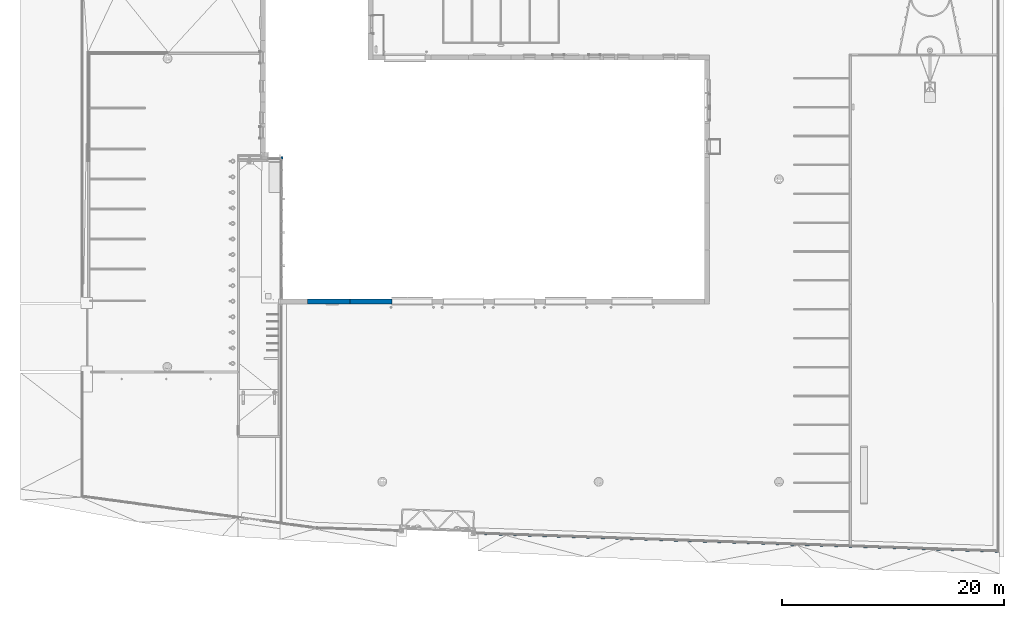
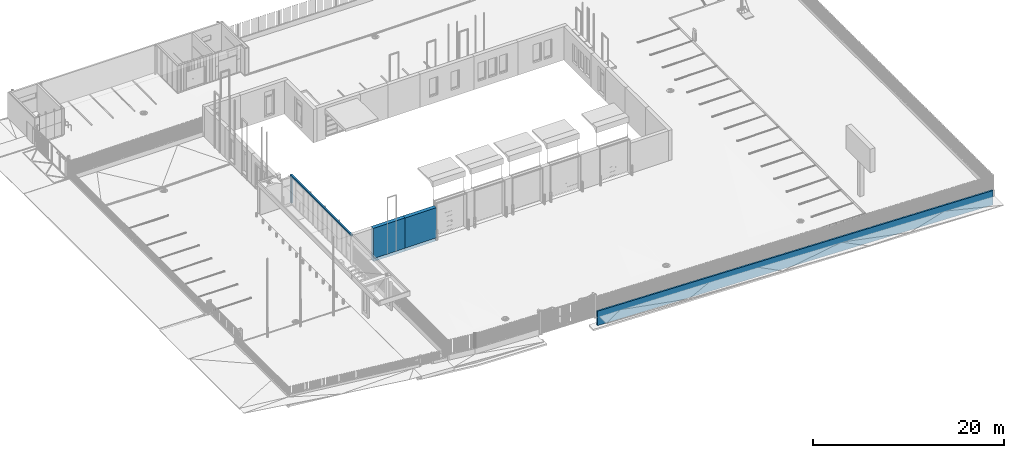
# One storey, part 15 of 77: 4 walls, 6 openings.
"""IFC2X3 building model written with IfcOpenShell, lengths in millimetres."""

from ifc_helpers import new_model, entity, si_unit, converted_unit, derived_unit, direction, frame, frame_2d, origin, place, context, subcontext, project, spatial, polyline, rectangle, outline, extrude, faceted_brep, material, layer, layer_set, layer_usage, type_object, element, save


model = new_model("IFC2X3")

# Units and contexts
model_context = context("Model", 3, precision=0.01, world=origin(), true_north=direction((6.12303176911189e-17, 1.0)))
body_context = subcontext(model_context, "Body", "Model", "MODEL_VIEW")
ifc_project = project(units=[si_unit("LENGTHUNIT", "METRE", prefix="MILLI"), si_unit("AREAUNIT", "SQUARE_METRE"), si_unit("VOLUMEUNIT", "CUBIC_METRE"), converted_unit("PLANEANGLEUNIT", "DEGREE", entity("IfcRatioMeasure", 0.0174532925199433), si_unit("PLANEANGLEUNIT", "RADIAN"), dimensions=[0, 0, 0, 0, 0, 0, 0]), si_unit("MASSUNIT", "GRAM", prefix="KILO"), derived_unit("MASSDENSITYUNIT", [(si_unit("MASSUNIT", "GRAM", prefix="KILO"), 1), (si_unit("LENGTHUNIT", "METRE"), -3)]), si_unit("TIMEUNIT", "SECOND"), si_unit("FREQUENCYUNIT", "HERTZ"), si_unit("THERMODYNAMICTEMPERATUREUNIT", "DEGREE_CELSIUS"), derived_unit("THERMALTRANSMITTANCEUNIT", [(si_unit("MASSUNIT", "GRAM", prefix="KILO"), 1), (si_unit("THERMODYNAMICTEMPERATUREUNIT", "KELVIN"), -1), (si_unit("TIMEUNIT", "SECOND"), -3)]), derived_unit("VOLUMETRICFLOWRATEUNIT", [(si_unit("LENGTHUNIT", "METRE"), 3), (si_unit("TIMEUNIT", "SECOND"), -1)]), si_unit("ELECTRICCURRENTUNIT", "AMPERE"), si_unit("ELECTRICVOLTAGEUNIT", "VOLT"), si_unit("POWERUNIT", "WATT"), si_unit("FORCEUNIT", "NEWTON", prefix="KILO"), si_unit("ILLUMINANCEUNIT", "LUX"), si_unit("LUMINOUSFLUXUNIT", "LUMEN"), si_unit("LUMINOUSINTENSITYUNIT", "CANDELA"), derived_unit("USERDEFINED", [(si_unit("MASSUNIT", "GRAM", prefix="KILO"), -1), (si_unit("LENGTHUNIT", "METRE"), -2), (si_unit("TIMEUNIT", "SECOND"), 3), (si_unit("LUMINOUSFLUXUNIT", "LUMEN"), 1)]), derived_unit("LINEARVELOCITYUNIT", [(si_unit("LENGTHUNIT", "METRE"), 1), (si_unit("TIMEUNIT", "SECOND"), -1)]), si_unit("PRESSUREUNIT", "PASCAL"), derived_unit("USERDEFINED", [(si_unit("LENGTHUNIT", "METRE"), -2), (si_unit("MASSUNIT", "GRAM", prefix="KILO"), 1), (si_unit("TIMEUNIT", "SECOND"), -2)])], contexts=[model_context])

# Site, building, storey
site_placement = place(None, origin())
site = spatial("IfcSite", under=ifc_project, at=site_placement, Name="Default", CompositionType="ELEMENT")
building_placement = place(site_placement, origin())
building = spatial("IfcBuilding", under=site, at=building_placement, CompositionType="ELEMENT")
storey_placement = place(building_placement, origin())
storey = spatial("IfcBuildingStorey", under=building, at=storey_placement, Name="1. KORRUS", CompositionType="ELEMENT", Elevation=0.0)

# Wall, openings
ifc_material_1 = material(Name="RECKLI 1 173 THUR by Polantis 2016-toon1")
ifc_layer_1 = layer(ifc_material_1, 100.0)
ifc_material_2 = material(Name="Soojusisolatsioon PIR")
ifc_layer_2 = layer(ifc_material_2, 150.0)
ifc_material_3 = material(Name="r/b")
ifc_layer_3 = layer(ifc_material_3, 200.0)
ifc_layer_set_1 = layer_set([ifc_layer_1, ifc_layer_2, ifc_layer_3], Name="Basic Wall:VS-2 -toon-d")
ifc_layer_usage_1 = layer_usage(ifc_layer_set_1, "AXIS2", "NEGATIVE", 225.0)
wall_type_1 = type_object("IfcWallType", Name="Basic Wall:VS-2 -toon-d", PredefinedType="STANDARD", material=ifc_layer_set_1)
wall_1_placement = place(storey_placement, frame((11400.0, -225.0, -400.0), z_axis=(0.0, 0.0, 1.0), x_axis=(-1.0, 0.0, 0.0)))
wall_1 = element("IfcWallStandardCase", 1, at=wall_1_placement, inside=storey, type_object=wall_type_1, material=ifc_layer_usage_1, Name="Basic Wall:VS-2 -toon-d", ObjectType="Basic Wall:VS-2 -toon-d", context=body_context, shape_type="SweptSolid", body=[
    extrude(rectangle(XDim=3785.0, YDim=450.0, at=frame_2d((1892.5, 2.8421709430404e-14), x_axis=(-1.0, 0.0))), origin(), (0.0, 0.0, 1.0), 4265.0),
])
opening_1_placement = place(wall_1_placement, origin())
element("IfcOpeningElement", 2, at=opening_1_placement, cuts=wall_1, Name="Basic Wall:VS-2 -toon-d", ObjectType="Opening", context=body_context, shape_type="Brep", body=[
    faceted_brep([(11830.0, -28255.0, 400.0), (11830.0, -28255.0, 0.0), (11850.0, -28275.0, 0.0), (11850.0, -28275.0, 400.0), (11830.0, -23515.0, 400.0), (11850.0, -23515.0, 400.0), (11850.0, -23515.0, 0.0), (11830.0, -23515.0, 0.0)], [[[0, 1, 2, 3]], [[4, 5, 6, 7]], [[1, 0, 4, 7]], [[2, 1, 7, 6]], [[3, 2, 6, 5]], [[0, 3, 5, 4]]]),
    faceted_brep([(11830.0, -28255.0, 400.0), (11850.0, -28275.0, 400.0), (11850.0, -28275.0, 0.0), (11830.0, -28255.0, 0.0), (7490.0, -28255.0, 400.0), (7490.0, -28255.0, 0.0), (7490.0, -28275.0, 0.0), (7490.0, -28275.0, 400.0)], [[[0, 1, 2, 3]], [[4, 5, 6, 7]], [[1, 0, 4, 7]], [[2, 1, 7, 6]], [[3, 2, 6, 5]], [[0, 3, 5, 4]]]),
    faceted_brep([(1770.0, -28255.0, 400.0), (1750.0, -28275.0, 400.0), (1750.0, -28275.0, 0.0), (1770.0, -28255.0, 0.0), (1770.0, -22155.0517807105, 400.0), (1770.0, -22155.0517807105, 0.0), (1750.0, -22175.0517807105, 0.0), (1750.0, -22175.0517807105, 400.0)], [[[0, 1, 2, 3]], [[4, 5, 6, 7]], [[1, 0, 4, 7]], [[2, 1, 7, 6]], [[3, 2, 6, 5]], [[0, 3, 5, 4]]]),
    faceted_brep([(-2950.0, -22155.0517807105, 400.0), (-2950.0, -22175.0517807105, 400.0), (-2950.0, -22175.0517807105, 0.0), (-2950.0, -22155.0517807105, 0.0), (-3480.0, -22155.0517807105, 400.0), (-3480.0, -22155.0517807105, 0.0), (-3480.0, -22175.0517807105, 0.0), (-3480.0, -22175.0517807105, 400.0)], [[[0, 1, 2, 3]], [[4, 5, 6, 7]], [[1, 0, 4, 7]], [[2, 1, 7, 6]], [[3, 2, 6, 5]], [[0, 3, 5, 4]]]),
    faceted_brep([(-28530.0, -22155.0517807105, 400.0), (-28550.0, -22175.0517807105, 400.0), (-28550.0, -22175.0517807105, 0.0), (-28530.0, -22155.0517807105, 0.0), (-28530.0, -16015.0, 400.0), (-28530.0, -16015.0, 0.0), (-28550.0, -16015.0, 0.0), (-28550.0, -16015.0, 400.0)], [[[0, 1, 2, 3]], [[4, 5, 6, 7]], [[1, 0, 4, 7]], [[2, 1, 7, 6]], [[3, 2, 6, 5]], [[0, 3, 5, 4]]]),
    faceted_brep([(-28530.0, 205.0, 400.0), (-28550.0, 225.0, 400.0), (-28550.0, 225.0, 0.0), (-28530.0, 205.0, 0.0), (-23400.0, 205.0, 400.0), (-23400.0, 205.0, 0.0), (-23400.0, 225.0, 0.0), (-23400.0, 225.0, 400.0)], [[[0, 1, 2, 3]], [[4, 5, 6, 7]], [[1, 0, 4, 7]], [[2, 1, 7, 6]], [[3, 2, 6, 5]], [[0, 3, 5, 4]]]),
    faceted_brep([(0.0, 205.0, 400.0), (0.0, 225.0, 400.0), (0.0, 225.0, 0.0), (0.0, 205.0, 0.0), (3785.0, 205.0, 400.0), (3785.0, 205.0, 0.0), (3785.0, 225.0, 0.0), (3785.0, 225.0, 400.0)], [[[0, 1, 2, 3]], [[4, 5, 6, 7]], [[1, 0, 4, 7]], [[2, 1, 7, 6]], [[3, 2, 6, 5]], [[0, 3, 5, 4]]]),
    faceted_brep([(-28530.0, -12985.0, 400.0), (-28550.0, -12985.0, 400.0), (-28550.0, -12985.0, 0.0), (-28530.0, -12985.0, 0.0), (-28530.0, -8868.33000000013, 400.0), (-28530.0, -8868.33000000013, 0.0), (-28550.0, -8868.33000000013, 0.0), (-28550.0, -8868.33000000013, 400.0)], [[[0, 1, 2, 3]], [[4, 5, 6, 7]], [[1, 0, 4, 7]], [[2, 1, 7, 6]], [[3, 2, 6, 5]], [[0, 3, 5, 4]]]),
    faceted_brep([(-19800.0, 205.0, 400.0), (-19800.0, 225.0, 400.0), (-19800.0, 225.0, 0.0), (-19800.0, 205.0, 0.0), (-17400.0, 205.0, 400.0), (-17400.0, 205.0, 0.0), (-17400.0, 225.0, 0.0), (-17400.0, 225.0, 400.0)], [[[0, 1, 2, 3]], [[4, 5, 6, 7]], [[1, 0, 4, 7]], [[2, 1, 7, 6]], [[3, 2, 6, 5]], [[0, 3, 5, 4]]]),
    faceted_brep([(7609.96917624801, 205.0, 400.0), (7609.96917624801, 225.0, 400.0), (7609.96917624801, 225.0, 0.0), (7609.96917624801, 205.0, 0.0), (10094.969176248, 205.0, 400.0), (10094.969176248, 205.0, 0.0), (10094.969176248, 225.0, 0.0), (10094.969176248, 225.0, 400.0)], [[[0, 1, 2, 3]], [[4, 5, 6, 7]], [[1, 0, 4, 7]], [[2, 1, 7, 6]], [[3, 2, 6, 5]], [[0, 3, 5, 4]]]),
    faceted_brep([(-4600.0, 205.0, 400.0), (-4600.0, 225.0, 400.0), (-4600.0, 225.0, 0.0), (-4600.0, 205.0, 0.0), (-3600.0, 205.0, 400.0), (-3600.0, 205.0, 0.0), (-3600.0, 225.0, 0.0), (-3600.0, 225.0, 400.0)], [[[0, 1, 2, 3]], [[4, 5, 6, 7]], [[1, 0, 4, 7]], [[2, 1, 7, 6]], [[3, 2, 6, 5]], [[0, 3, 5, 4]]]),
    faceted_brep([(-9200.03166298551, 205.0, 400.0), (-9200.03166298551, 225.0, 400.0), (-9200.03166298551, 225.0, 0.0), (-9200.03166298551, 205.0, 0.0), (-8200.0, 205.0, 400.0), (-8200.0, 205.0, 0.0), (-8200.0, 225.0, 0.0), (-8200.0, 225.0, 400.0)], [[[0, 1, 2, 3]], [[4, 5, 6, 7]], [[1, 0, 4, 7]], [[2, 1, 7, 6]], [[3, 2, 6, 5]], [[0, 3, 5, 4]]]),
    faceted_brep([(-13800.0316629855, 205.0, 400.0), (-13800.0316629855, 225.0, 400.0), (-13800.0316629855, 225.0, 0.0), (-13800.0316629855, 205.0, 0.0), (-12800.0, 205.0, 400.0), (-12800.0, 205.0, 0.0), (-12800.0, 225.0, 0.0), (-12800.0, 225.0, 400.0)], [[[0, 1, 2, 3]], [[4, 5, 6, 7]], [[1, 0, 4, 7]], [[2, 1, 7, 6]], [[3, 2, 6, 5]], [[0, 3, 5, 4]]]),
    faceted_brep([(-28530.0, -4640.0, 400.0), (-28550.0, -4640.0, 400.0), (-28550.0, -4640.0, 0.0), (-28530.0, -4640.0, 0.0), (-28530.0, 205.0, 400.0), (-28530.0, 205.0, 0.0), (-28550.0, 225.0, 0.0), (-28550.0, 225.0, 400.0)], [[[0, 1, 2, 3]], [[4, 5, 6, 7]], [[1, 0, 4, 7]], [[2, 1, 7, 6]], [[3, 2, 6, 5]], [[0, 3, 5, 4]]]),
    faceted_brep([(-28530.0, -8868.33000000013, 400.0), (-28550.0, -8868.33000000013, 400.0), (-28550.0, -8868.33000000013, 0.0), (-28530.0, -8868.33000000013, 0.0), (-28530.0, -4640.0, 400.0), (-28530.0, -4640.0, 0.0), (-28550.0, -4640.0, 0.0), (-28550.0, -4640.0, 400.0)], [[[0, 1, 2, 3]], [[4, 5, 6, 7]], [[1, 0, 4, 7]], [[2, 1, 7, 6]], [[3, 2, 6, 5]], [[0, 3, 5, 4]]]),
    faceted_brep([(-28530.0, -16015.0, 400.0), (-28550.0, -16015.0, 400.0), (-28550.0, -16015.0, 0.0), (-28530.0, -16015.0, 0.0), (-28530.0, -12985.0, 400.0), (-28530.0, -12985.0, 0.0), (-28550.0, -12985.0, 0.0), (-28550.0, -12985.0, 400.0)], [[[0, 1, 2, 3]], [[4, 5, 6, 7]], [[1, 0, 4, 7]], [[2, 1, 7, 6]], [[3, 2, 6, 5]], [[0, 3, 5, 4]]]),
    faceted_brep([(-22570.1035702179, -22155.0517807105, 400.0), (-22570.1035702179, -22175.0517807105, 400.0), (-22570.1035702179, -22175.0517807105, 0.0), (-22570.1035702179, -22155.0517807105, 0.0), (-28530.0, -22155.0517807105, 400.0), (-28530.0, -22155.0517807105, 0.0), (-28550.0, -22175.0517807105, 0.0), (-28550.0, -22175.0517807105, 400.0)], [[[0, 1, 2, 3]], [[4, 5, 6, 7]], [[1, 0, 4, 7]], [[2, 1, 7, 6]], [[3, 2, 6, 5]], [[0, 3, 5, 4]]]),
    faceted_brep([(-17263.2161487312, -22155.0517807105, 400.0), (-17263.2161487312, -22175.0517807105, 400.0), (-17263.2161487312, -22175.0517807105, 0.0), (-17263.2161487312, -22155.0517807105, 0.0), (-22570.1035702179, -22155.0517807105, 400.0), (-22570.1035702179, -22155.0517807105, 0.0), (-22570.1035702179, -22175.0517807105, 0.0), (-22570.1035702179, -22175.0517807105, 400.0)], [[[0, 1, 2, 3]], [[4, 5, 6, 7]], [[1, 0, 4, 7]], [[2, 1, 7, 6]], [[3, 2, 6, 5]], [[0, 3, 5, 4]]]),
    faceted_brep([(3785.0, 205.0, 400.0), (3785.0, 225.0, 400.0), (3785.0, 225.0, 0.0), (3785.0, 205.0, 0.0), (7609.96917624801, 205.0, 400.0), (7609.96917624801, 205.0, 0.0), (7609.96917624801, 225.0, 0.0), (7609.96917624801, 225.0, 400.0)], [[[0, 1, 2, 3]], [[4, 5, 6, 7]], [[1, 0, 4, 7]], [[2, 1, 7, 6]], [[3, 2, 6, 5]], [[0, 3, 5, 4]]]),
    faceted_brep([(-10685.0, -22155.0517807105, 400.0), (-10685.0, -22175.0517807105, 400.0), (-10685.0, -22175.0517807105, 0.0), (-10685.0, -22155.0517807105, 0.0), (-17263.2161487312, -22155.0517807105, 400.0), (-17263.2161487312, -22155.0517807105, 0.0), (-17263.2161487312, -22175.0517807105, 0.0), (-17263.2161487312, -22175.0517807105, 400.0)], [[[0, 1, 2, 3]], [[4, 5, 6, 7]], [[1, 0, 4, 7]], [[2, 1, 7, 6]], [[3, 2, 6, 5]], [[0, 3, 5, 4]]]),
    faceted_brep([(-6853.3528910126, -22155.0517807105, 400.0), (-6853.3528910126, -22175.0517807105, 400.0), (-6853.3528910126, -22175.0517807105, 0.0), (-6853.3528910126, -22155.0517807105, 0.0), (-10685.0, -22155.0517807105, 400.0), (-10685.0, -22155.0517807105, 0.0), (-10685.0, -22175.0517807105, 0.0), (-10685.0, -22175.0517807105, 400.0)], [[[0, 1, 2, 3]], [[4, 5, 6, 7]], [[1, 0, 4, 7]], [[2, 1, 7, 6]], [[3, 2, 6, 5]], [[0, 3, 5, 4]]]),
    faceted_brep([(-3480.0, -22155.0517807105, 400.0), (-3480.0, -22175.0517807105, 400.0), (-3480.0, -22175.0517807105, 0.0), (-3480.0, -22155.0517807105, 0.0), (-6853.3528910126, -22155.0517807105, 400.0), (-6853.3528910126, -22155.0517807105, 0.0), (-6853.3528910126, -22175.0517807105, 0.0), (-6853.3528910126, -22175.0517807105, 400.0)], [[[0, 1, 2, 3]], [[4, 5, 6, 7]], [[1, 0, 4, 7]], [[2, 1, 7, 6]], [[3, 2, 6, 5]], [[0, 3, 5, 4]]]),
    faceted_brep([(7490.0, -28255.0, 400.0), (7490.0, -28275.0, 400.0), (7490.0, -28275.0, 0.0), (7490.0, -28255.0, 0.0), (1770.0, -28255.0, 400.0), (1770.0, -28255.0, 0.0), (1750.0, -28275.0, 0.0), (1750.0, -28275.0, 400.0)], [[[0, 1, 2, 3]], [[4, 5, 6, 7]], [[1, 0, 4, 7]], [[2, 1, 7, 6]], [[3, 2, 6, 5]], [[0, 3, 5, 4]]]),
    faceted_brep([(11830.0, -23515.0, 400.0), (11830.0, -23515.0, 0.0), (11850.0, -23515.0, 0.0), (11850.0, -23515.0, 400.0), (11830.0, -17965.0006972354, 400.0), (11850.0, -17965.0006972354, 400.0), (11850.0, -17965.0006972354, 0.0), (11830.0, -17965.0006972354, 0.0)], [[[0, 1, 2, 3]], [[4, 5, 6, 7]], [[1, 0, 4, 7]], [[2, 1, 7, 6]], [[3, 2, 6, 5]], [[0, 3, 5, 4]]]),
    faceted_brep([(11830.0, -17965.0006972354, 400.0), (11830.0, -17965.0006972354, 0.0), (11850.0, -17965.0006972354, 0.0), (11850.0, -17965.0006972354, 400.0), (11830.0, -13025.0, 400.0), (11850.0, -13025.0, 400.0), (11850.0, -13025.0, 0.0), (11830.0, -13025.0, 0.0)], [[[0, 1, 2, 3]], [[4, 5, 6, 7]], [[1, 0, 4, 7]], [[2, 1, 7, 6]], [[3, 2, 6, 5]], [[0, 3, 5, 4]]]),
    faceted_brep([(1770.0, -22155.0517807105, 400.0), (1750.0, -22175.0517807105, 400.0), (1750.0, -22175.0517807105, 0.0), (1770.0, -22155.0517807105, 0.0), (650.0, -22155.0517807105, 400.0), (650.0, -22155.0517807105, 0.0), (650.0, -22175.0517807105, 0.0), (650.0, -22175.0517807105, 400.0)], [[[0, 1, 2, 3]], [[4, 5, 6, 7]], [[1, 0, 4, 7]], [[2, 1, 7, 6]], [[3, 2, 6, 5]], [[0, 3, 5, 4]]]),
])
opening_2_placement = place(wall_1_placement, origin())
element("IfcOpeningElement", 3, at=opening_2_placement, cuts=wall_1, Name="Basic Wall:VS-2 -toon-d", ObjectType="Recess", context=body_context, shape_type="SweptSolid", body=[
    extrude(rectangle(XDim=4265.0, YDim=15.9999999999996, at=frame_2d((0.0, -5.40900657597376e-13), x_axis=(1.0, 0.0))), frame((3792.97260260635, 205.0, 2132.5), z_axis=(0.0, 1.0, 0.0), x_axis=(0.0, 0.0, 1.0)), (0.0, 0.0, 1.0), 20.0000000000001),
])
opening_3_placement = place(wall_1_placement, frame((0.0, 225.0, 400.0)))
element("IfcOpeningElement", 4, at=opening_3_placement, cuts=wall_1, Name="Doors_Industrial_ASSA-ABLOY-OH1042F_With-Passdoor-Low-Threshold_bottom-glazed:GU01_Doors_Industrial_ASSA-ABLOY-OH1042F_With-Passdoor-Low-Threshold_bottom-glazed:1", ObjectType="Opening", context=body_context, shape_type="SweptSolid", body=[
    extrude(rectangle(XDim=4499.99999999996, YDim=3600.0, at=frame_2d((2249.99999999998, 1800.0), x_axis=(1.0, 0.0))), frame((0.0, 0.0, 0.0), z_axis=(0.0, -1.0, 0.0), x_axis=(0.0, 0.0, 1.0)), (0.0, 0.0, 1.0), 450.0),
])

ifc_layer_usage_2 = layer_usage(ifc_layer_set_1, "AXIS2", "NEGATIVE", 225.0)
wall_2_placement = place(storey_placement, frame((7615.0, -225.0, -400.0), z_axis=(0.0, 0.0, 1.0), x_axis=(-1.0, 0.0, 0.0)))
wall_2 = element("IfcWallStandardCase", 5, at=wall_2_placement, inside=storey, type_object=wall_type_1, material=ifc_layer_usage_2, Name="Basic Wall:VS-2 -toon-d", ObjectType="Basic Wall:VS-2 -toon-d", context=body_context, shape_type="SweptSolid", body=[
    extrude(rectangle(XDim=3824.96917624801, YDim=450.0, at=frame_2d((1912.48458812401, 1.4210854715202e-14), x_axis=(-1.0, 0.0))), origin(), (0.0, 0.0, 1.0), 4265.0),
])
opening_4_placement = place(wall_2_placement, origin())
element("IfcOpeningElement", 6, at=opening_4_placement, cuts=wall_2, Name="Basic Wall:VS-2 -toon-d", ObjectType="Recess", context=body_context, shape_type="SweptSolid", body=[
    extrude(rectangle(XDim=4835.0, YDim=16.0000000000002, at=frame_2d((2.27373675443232e-13, -2.70450328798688e-13), x_axis=(1.0, 0.0))), frame((3812.9772496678, 205.0, 6682.5), z_axis=(0.0, 1.0, 0.0), x_axis=(0.0, 0.0, 1.0)), (0.0, 0.0, 1.0), 20.0000000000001),
    extrude(rectangle(XDim=4265.0, YDim=16.0000000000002, at=frame_2d((0.0, -2.70450328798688e-13), x_axis=(1.0, 0.0))), frame((3812.9772496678, 205.0, 2132.5), z_axis=(0.0, 1.0, 0.0), x_axis=(0.0, 0.0, 1.0)), (0.0, 0.0, 1.0), 20.0000000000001),
])
opening_5_placement = place(wall_2_placement, origin())
element("IfcOpeningElement", 7, at=opening_5_placement, cuts=wall_2, Name="Basic Wall:VS-2 -toon-d", ObjectType="Opening", context=body_context, shape_type="Brep", body=[
    faceted_brep([(8045.0, -28255.0, 400.0), (8045.0, -28255.0, 0.0), (8065.0, -28275.0, 0.0), (8065.0, -28275.0, 400.0), (8045.0, -23515.0, 400.0), (8065.0, -23515.0, 400.0), (8065.0, -23515.0, 0.0), (8045.0, -23515.0, 0.0)], [[[0, 1, 2, 3]], [[4, 5, 6, 7]], [[1, 0, 4, 7]], [[2, 1, 7, 6]], [[3, 2, 6, 5]], [[0, 3, 5, 4]]]),
    faceted_brep([(8045.0, -28255.0, 400.0), (8065.0, -28275.0, 400.0), (8065.0, -28275.0, 0.0), (8045.0, -28255.0, 0.0), (3705.0, -28255.0, 400.0), (3705.0, -28255.0, 0.0), (3705.0, -28275.0, 0.0), (3705.0, -28275.0, 400.0)], [[[0, 1, 2, 3]], [[4, 5, 6, 7]], [[1, 0, 4, 7]], [[2, 1, 7, 6]], [[3, 2, 6, 5]], [[0, 3, 5, 4]]]),
    faceted_brep([(-2015.0, -28255.0, 400.0), (-2035.0, -28275.0, 400.0), (-2035.0, -28275.0, 0.0), (-2015.0, -28255.0, 0.0), (-2015.0, -22155.0517807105, 400.0), (-2015.0, -22155.0517807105, 0.0), (-2035.0, -22175.0517807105, 0.0), (-2035.0, -22175.0517807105, 400.0)], [[[0, 1, 2, 3]], [[4, 5, 6, 7]], [[1, 0, 4, 7]], [[2, 1, 7, 6]], [[3, 2, 6, 5]], [[0, 3, 5, 4]]]),
    faceted_brep([(-6735.0, -22155.0517807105, 400.0), (-6735.0, -22175.0517807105, 400.0), (-6735.0, -22175.0517807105, 0.0), (-6735.0, -22155.0517807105, 0.0), (-7265.0, -22155.0517807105, 400.0), (-7265.0, -22155.0517807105, 0.0), (-7265.0, -22175.0517807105, 0.0), (-7265.0, -22175.0517807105, 400.0)], [[[0, 1, 2, 3]], [[4, 5, 6, 7]], [[1, 0, 4, 7]], [[2, 1, 7, 6]], [[3, 2, 6, 5]], [[0, 3, 5, 4]]]),
    faceted_brep([(-32315.0, -22155.0517807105, 400.0), (-32335.0, -22175.0517807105, 400.0), (-32335.0, -22175.0517807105, 0.0), (-32315.0, -22155.0517807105, 0.0), (-32315.0, -16015.0, 400.0), (-32315.0, -16015.0, 0.0), (-32335.0, -16015.0, 0.0), (-32335.0, -16015.0, 400.0)], [[[0, 1, 2, 3]], [[4, 5, 6, 7]], [[1, 0, 4, 7]], [[2, 1, 7, 6]], [[3, 2, 6, 5]], [[0, 3, 5, 4]]]),
    faceted_brep([(-32315.0, 205.0, 400.0), (-32335.0, 225.0, 400.0), (-32335.0, 225.0, 0.0), (-32315.0, 205.0, 0.0), (-27185.0, 205.0, 400.0), (-27185.0, 205.0, 0.0), (-27185.0, 225.0, 0.0), (-27185.0, 225.0, 400.0)], [[[0, 1, 2, 3]], [[4, 5, 6, 7]], [[1, 0, 4, 7]], [[2, 1, 7, 6]], [[3, 2, 6, 5]], [[0, 3, 5, 4]]]),
    faceted_brep([(-3785.0, 205.0, 400.0), (-3785.0, 225.0, 400.0), (-3785.0, 225.0, 0.0), (-3785.0, 205.0, 0.0), (0.0, 205.0, 400.0), (0.0, 205.0, 0.0), (0.0, 225.0, 0.0), (0.0, 225.0, 400.0)], [[[0, 1, 2, 3]], [[4, 5, 6, 7]], [[1, 0, 4, 7]], [[2, 1, 7, 6]], [[3, 2, 6, 5]], [[0, 3, 5, 4]]]),
    faceted_brep([(-32315.0, -12985.0, 400.0), (-32335.0, -12985.0, 400.0), (-32335.0, -12985.0, 0.0), (-32315.0, -12985.0, 0.0), (-32315.0, -8868.33000000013, 400.0), (-32315.0, -8868.33000000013, 0.0), (-32335.0, -8868.33000000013, 0.0), (-32335.0, -8868.33000000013, 400.0)], [[[0, 1, 2, 3]], [[4, 5, 6, 7]], [[1, 0, 4, 7]], [[2, 1, 7, 6]], [[3, 2, 6, 5]], [[0, 3, 5, 4]]]),
    faceted_brep([(-23585.0, 205.0, 400.0), (-23585.0, 225.0, 400.0), (-23585.0, 225.0, 0.0), (-23585.0, 205.0, 0.0), (-21185.0, 205.0, 400.0), (-21185.0, 205.0, 0.0), (-21185.0, 225.0, 0.0), (-21185.0, 225.0, 400.0)], [[[0, 1, 2, 3]], [[4, 5, 6, 7]], [[1, 0, 4, 7]], [[2, 1, 7, 6]], [[3, 2, 6, 5]], [[0, 3, 5, 4]]]),
    faceted_brep([(3824.96917624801, 205.0, 400.0), (3824.96917624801, 225.0, 400.0), (3824.96917624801, 225.0, 0.0), (3824.96917624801, 205.0, 0.0), (6309.96917624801, 205.0, 400.0), (6309.96917624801, 205.0, 0.0), (6309.96917624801, 225.0, 0.0), (6309.96917624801, 225.0, 400.0)], [[[0, 1, 2, 3]], [[4, 5, 6, 7]], [[1, 0, 4, 7]], [[2, 1, 7, 6]], [[3, 2, 6, 5]], [[0, 3, 5, 4]]]),
    faceted_brep([(-8385.0, 205.0, 400.0), (-8385.0, 225.0, 400.0), (-8385.0, 225.0, 0.0), (-8385.0, 205.0, 0.0), (-7385.0, 205.0, 400.0), (-7385.0, 205.0, 0.0), (-7385.0, 225.0, 0.0), (-7385.0, 225.0, 400.0)], [[[0, 1, 2, 3]], [[4, 5, 6, 7]], [[1, 0, 4, 7]], [[2, 1, 7, 6]], [[3, 2, 6, 5]], [[0, 3, 5, 4]]]),
    faceted_brep([(-12985.0316629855, 205.0, 400.0), (-12985.0316629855, 225.0, 400.0), (-12985.0316629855, 225.0, 0.0), (-12985.0316629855, 205.0, 0.0), (-11985.0, 205.0, 400.0), (-11985.0, 205.0, 0.0), (-11985.0, 225.0, 0.0), (-11985.0, 225.0, 400.0)], [[[0, 1, 2, 3]], [[4, 5, 6, 7]], [[1, 0, 4, 7]], [[2, 1, 7, 6]], [[3, 2, 6, 5]], [[0, 3, 5, 4]]]),
    faceted_brep([(-17585.0316629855, 205.0, 400.0), (-17585.0316629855, 225.0, 400.0), (-17585.0316629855, 225.0, 0.0), (-17585.0316629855, 205.0, 0.0), (-16585.0, 205.0, 400.0), (-16585.0, 205.0, 0.0), (-16585.0, 225.0, 0.0), (-16585.0, 225.0, 400.0)], [[[0, 1, 2, 3]], [[4, 5, 6, 7]], [[1, 0, 4, 7]], [[2, 1, 7, 6]], [[3, 2, 6, 5]], [[0, 3, 5, 4]]]),
    faceted_brep([(-32315.0, -4640.0, 400.0), (-32335.0, -4640.0, 400.0), (-32335.0, -4640.0, 0.0), (-32315.0, -4640.0, 0.0), (-32315.0, 205.0, 400.0), (-32315.0, 205.0, 0.0), (-32335.0, 225.0, 0.0), (-32335.0, 225.0, 400.0)], [[[0, 1, 2, 3]], [[4, 5, 6, 7]], [[1, 0, 4, 7]], [[2, 1, 7, 6]], [[3, 2, 6, 5]], [[0, 3, 5, 4]]]),
    faceted_brep([(-32315.0, -8868.33000000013, 400.0), (-32335.0, -8868.33000000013, 400.0), (-32335.0, -8868.33000000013, 0.0), (-32315.0, -8868.33000000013, 0.0), (-32315.0, -4640.0, 400.0), (-32315.0, -4640.0, 0.0), (-32335.0, -4640.0, 0.0), (-32335.0, -4640.0, 400.0)], [[[0, 1, 2, 3]], [[4, 5, 6, 7]], [[1, 0, 4, 7]], [[2, 1, 7, 6]], [[3, 2, 6, 5]], [[0, 3, 5, 4]]]),
    faceted_brep([(-32315.0, -16015.0, 400.0), (-32335.0, -16015.0, 400.0), (-32335.0, -16015.0, 0.0), (-32315.0, -16015.0, 0.0), (-32315.0, -12985.0, 400.0), (-32315.0, -12985.0, 0.0), (-32335.0, -12985.0, 0.0), (-32335.0, -12985.0, 400.0)], [[[0, 1, 2, 3]], [[4, 5, 6, 7]], [[1, 0, 4, 7]], [[2, 1, 7, 6]], [[3, 2, 6, 5]], [[0, 3, 5, 4]]]),
    faceted_brep([(-26355.1035702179, -22155.0517807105, 400.0), (-26355.1035702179, -22175.0517807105, 400.0), (-26355.1035702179, -22175.0517807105, 0.0), (-26355.1035702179, -22155.0517807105, 0.0), (-32315.0, -22155.0517807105, 400.0), (-32315.0, -22155.0517807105, 0.0), (-32335.0, -22175.0517807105, 0.0), (-32335.0, -22175.0517807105, 400.0)], [[[0, 1, 2, 3]], [[4, 5, 6, 7]], [[1, 0, 4, 7]], [[2, 1, 7, 6]], [[3, 2, 6, 5]], [[0, 3, 5, 4]]]),
    faceted_brep([(-21048.2161487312, -22155.0517807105, 400.0), (-21048.2161487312, -22175.0517807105, 400.0), (-21048.2161487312, -22175.0517807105, 0.0), (-21048.2161487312, -22155.0517807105, 0.0), (-26355.1035702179, -22155.0517807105, 400.0), (-26355.1035702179, -22155.0517807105, 0.0), (-26355.1035702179, -22175.0517807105, 0.0), (-26355.1035702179, -22175.0517807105, 400.0)], [[[0, 1, 2, 3]], [[4, 5, 6, 7]], [[1, 0, 4, 7]], [[2, 1, 7, 6]], [[3, 2, 6, 5]], [[0, 3, 5, 4]]]),
    faceted_brep([(0.0, 205.0, 400.0), (0.0, 225.0, 400.0), (0.0, 225.0, 0.0), (0.0, 205.0, 0.0), (3824.96917624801, 205.0, 400.0), (3824.96917624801, 205.0, 0.0), (3824.96917624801, 225.0, 0.0), (3824.96917624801, 225.0, 400.0)], [[[0, 1, 2, 3]], [[4, 5, 6, 7]], [[1, 0, 4, 7]], [[2, 1, 7, 6]], [[3, 2, 6, 5]], [[0, 3, 5, 4]]]),
    faceted_brep([(-14470.0, -22155.0517807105, 400.0), (-14470.0, -22175.0517807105, 400.0), (-14470.0, -22175.0517807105, 0.0), (-14470.0, -22155.0517807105, 0.0), (-21048.2161487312, -22155.0517807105, 400.0), (-21048.2161487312, -22155.0517807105, 0.0), (-21048.2161487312, -22175.0517807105, 0.0), (-21048.2161487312, -22175.0517807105, 400.0)], [[[0, 1, 2, 3]], [[4, 5, 6, 7]], [[1, 0, 4, 7]], [[2, 1, 7, 6]], [[3, 2, 6, 5]], [[0, 3, 5, 4]]]),
    faceted_brep([(-10638.3528910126, -22155.0517807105, 400.0), (-10638.3528910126, -22175.0517807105, 400.0), (-10638.3528910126, -22175.0517807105, 0.0), (-10638.3528910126, -22155.0517807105, 0.0), (-14470.0, -22155.0517807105, 400.0), (-14470.0, -22155.0517807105, 0.0), (-14470.0, -22175.0517807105, 0.0), (-14470.0, -22175.0517807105, 400.0)], [[[0, 1, 2, 3]], [[4, 5, 6, 7]], [[1, 0, 4, 7]], [[2, 1, 7, 6]], [[3, 2, 6, 5]], [[0, 3, 5, 4]]]),
    faceted_brep([(-7265.0, -22155.0517807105, 400.0), (-7265.0, -22175.0517807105, 400.0), (-7265.0, -22175.0517807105, 0.0), (-7265.0, -22155.0517807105, 0.0), (-10638.3528910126, -22155.0517807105, 400.0), (-10638.3528910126, -22155.0517807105, 0.0), (-10638.3528910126, -22175.0517807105, 0.0), (-10638.3528910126, -22175.0517807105, 400.0)], [[[0, 1, 2, 3]], [[4, 5, 6, 7]], [[1, 0, 4, 7]], [[2, 1, 7, 6]], [[3, 2, 6, 5]], [[0, 3, 5, 4]]]),
    faceted_brep([(3705.0, -28255.0, 400.0), (3705.0, -28275.0, 400.0), (3705.0, -28275.0, 0.0), (3705.0, -28255.0, 0.0), (-2015.0, -28255.0, 400.0), (-2015.0, -28255.0, 0.0), (-2035.0, -28275.0, 0.0), (-2035.0, -28275.0, 400.0)], [[[0, 1, 2, 3]], [[4, 5, 6, 7]], [[1, 0, 4, 7]], [[2, 1, 7, 6]], [[3, 2, 6, 5]], [[0, 3, 5, 4]]]),
    faceted_brep([(8045.0, -23515.0, 400.0), (8045.0, -23515.0, 0.0), (8065.0, -23515.0, 0.0), (8065.0, -23515.0, 400.0), (8045.0, -17965.0006972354, 400.0), (8065.0, -17965.0006972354, 400.0), (8065.0, -17965.0006972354, 0.0), (8045.0, -17965.0006972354, 0.0)], [[[0, 1, 2, 3]], [[4, 5, 6, 7]], [[1, 0, 4, 7]], [[2, 1, 7, 6]], [[3, 2, 6, 5]], [[0, 3, 5, 4]]]),
    faceted_brep([(8045.0, -17965.0006972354, 400.0), (8045.0, -17965.0006972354, 0.0), (8065.0, -17965.0006972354, 0.0), (8065.0, -17965.0006972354, 400.0), (8045.0, -13025.0, 400.0), (8065.0, -13025.0, 400.0), (8065.0, -13025.0, 0.0), (8045.0, -13025.0, 0.0)], [[[0, 1, 2, 3]], [[4, 5, 6, 7]], [[1, 0, 4, 7]], [[2, 1, 7, 6]], [[3, 2, 6, 5]], [[0, 3, 5, 4]]]),
    faceted_brep([(-2015.0, -22155.0517807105, 400.0), (-2035.0, -22175.0517807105, 400.0), (-2035.0, -22175.0517807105, 0.0), (-2015.0, -22155.0517807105, 0.0), (-3135.0, -22155.0517807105, 400.0), (-3135.0, -22155.0517807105, 0.0), (-3135.0, -22175.0517807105, 0.0), (-3135.0, -22175.0517807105, 400.0)], [[[0, 1, 2, 3]], [[4, 5, 6, 7]], [[1, 0, 4, 7]], [[2, 1, 7, 6]], [[3, 2, 6, 5]], [[0, 3, 5, 4]]]),
])

# Wall, opening
ifc_material_4 = material(Name="Soojusisolatsioon")
ifc_layer_4 = layer(ifc_material_4, 195.0)
ifc_layer_set_2 = layer_set([ifc_layer_4], Name="Basic Wall:VS-KF yleval")
ifc_layer_usage_3 = layer_usage(ifc_layer_set_2, "AXIS2", "POSITIVE", -97.5)
wall_type_2 = type_object("IfcWallType", Name="Basic Wall:VS-KF yleval", PredefinedType="STANDARD", material=ifc_layer_set_2)
wall_3_placement = place(storey_placement, frame((1477.50463021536, 12810.0, 0.0), z_axis=(0.0, 0.0, 1.0), x_axis=(0.0, -1.0, 0.0)))
wall_3 = element("IfcWallStandardCase", 8, at=wall_3_placement, inside=storey, type_object=wall_type_2, material=ifc_layer_usage_3, Name="Basic Wall:VS-KF yleval", ObjectType="Basic Wall:VS-KF yleval", context=body_context, shape_type="SweptSolid", body=[
    extrude(rectangle(XDim=12810.0, YDim=195.0, at=frame_2d((6405.0, 4.9737991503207e-14), x_axis=(-1.0, 0.0))), origin(), (0.0, 0.0, 1.0), 3600.0),
])
opening_6_placement = place(wall_3_placement, origin())
element("IfcOpeningElement", 9, at=opening_6_placement, cuts=wall_3, Name="Basic Wall:VS-KF yleval", ObjectType="Opening", context=body_context, shape_type="SweptSolid", body=[
    extrude(rectangle(XDim=3400.0, YDim=12595.0, at=frame_2d((0.0, 0.0), x_axis=(0.0, 1.0))), frame((6512.49999997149, -249.9, 1700.0), z_axis=(0.0, 1.0, 0.0), x_axis=(-1.0, 0.0, 0.0)), (0.0, 0.0, 1.0), 499.8),
])

# Wall
ifc_material_5 = material(Name="aia r/b sokkel")
ifc_layer_5 = layer(ifc_material_5, 200.0)
ifc_layer_set_3 = layer_set([ifc_layer_5], Name="Basic Wall:Aed")
ifc_layer_usage_4 = layer_usage(ifc_layer_set_3, "AXIS2", "NEGATIVE", 100.0)
wall_type_3 = type_object("IfcWallType", Name="Basic Wall:Aed", PredefinedType="STANDARD", material=ifc_layer_set_3)
wall_4_placement = place(storey_placement, frame((65874.2486577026, -22703.6469622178, -1300.0), z_axis=(0.0, 0.0, 1.0), x_axis=(-0.99941329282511, 0.0342501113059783, 0.0)))
element("IfcWallStandardCase", 10, at=wall_4_placement, inside=storey, type_object=wall_type_3, material=ifc_layer_usage_4, Name="Basic Wall:Aed", ObjectType="Basic Wall:Aed", context=body_context, shape_type="SweptSolid", body=[
    extrude(outline(polyline([(46962.0850863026, -100.0), (46962.0850863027, 100.0), (0.0, 100.0), (6.96534596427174, -100.0), (46962.0850863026, -100.0)])), origin(), (0.0, 0.0, 1.0), 1850.0),
])

save(model, "model.ifc")
